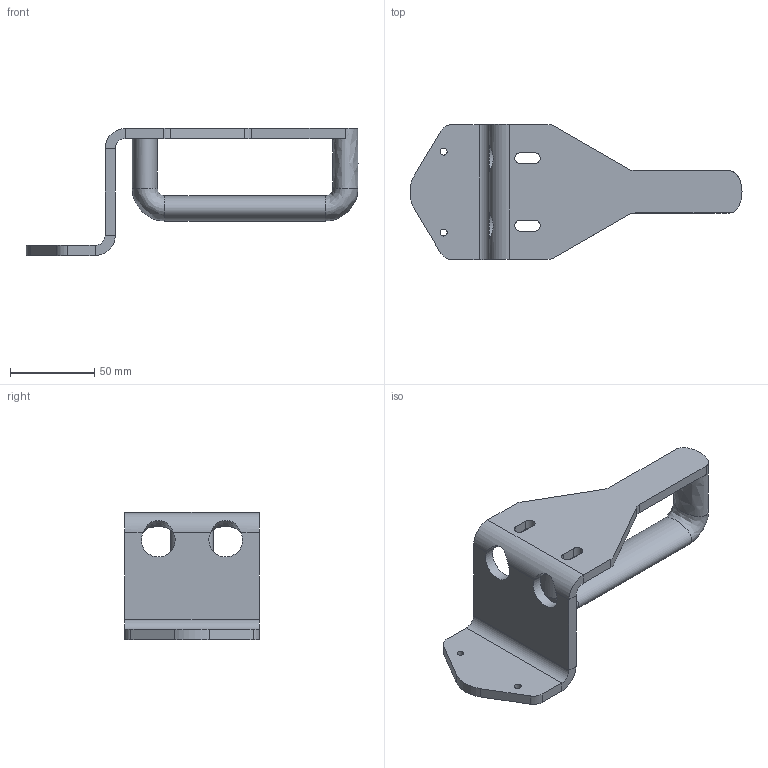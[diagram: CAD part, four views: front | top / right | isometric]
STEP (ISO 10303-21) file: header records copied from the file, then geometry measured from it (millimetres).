
FILE_DESCRIPTION(/* description */ (''),/* implementation_level */ '2;1');
FILE_NAME(/* name */ 'C:\Users\Matrose\Desktop\H-2736 - ml Zubehör L-Winkel, Notentriegelung, etc_pang\Kundendaten SAP Internet\570496 handle 70\H305182_C_Kundendaten_Handgriff_Schwenktüre_70.stp',/* time_stamp */ '2019-12-17T16:22:22+01:00',/* author */ ('Matrose'),/* organization */ (''),/* preprocessor_version */ 'ST-DEVELOPER v18',/* originating_system */ 'Autodesk Inventor 2020',/* authorisation */ '');
FILE_SCHEMA (('AUTOMOTIVE_DESIGN { 1 0 10303 214 3 1 1 }'));
Length unit declared in the file: millimetre
Products named in the file (1): H305182
Bounding box: 196.94 x 80 x 75.45 mm (x, y, z)
Volume: 141620.7 mm3; surface area: 44981.4 mm2
Topology: 1 solids, 1 shells, 52 faces, 142 edges, 87 vertices
Faces by surface type: plane 26, cylinder 19, bspline 7
Full cylindrical faces by diameter (mm): 4.134 x2
Entity records: 1883 total; most frequent: CARTESIAN_POINT 499, ORIENTED_EDGE 284, DIRECTION 279, EDGE_CURVE 142, AXIS2_PLACEMENT_3D 95, LINE 89, VECTOR 89, VERTEX_POINT 87
